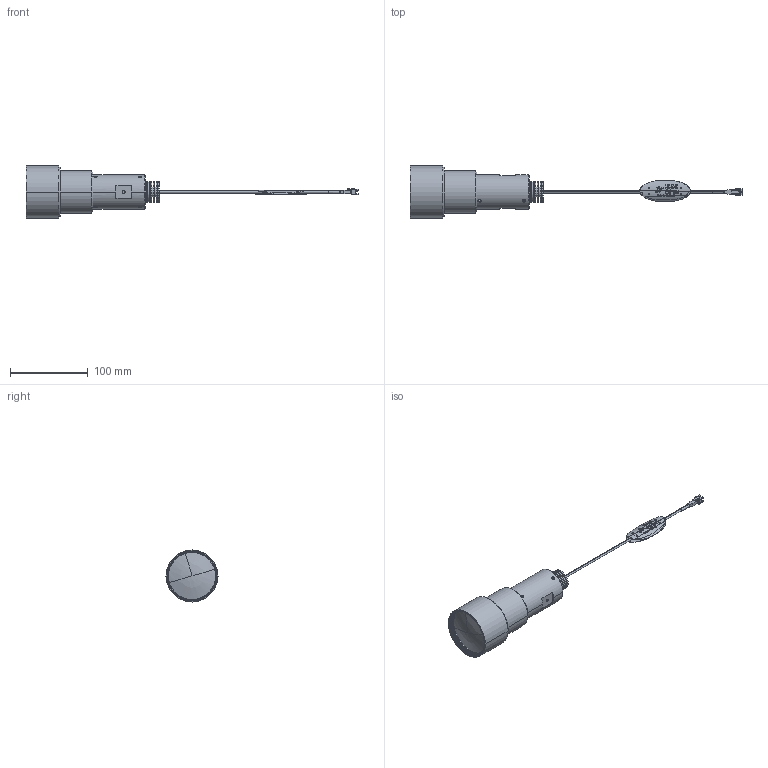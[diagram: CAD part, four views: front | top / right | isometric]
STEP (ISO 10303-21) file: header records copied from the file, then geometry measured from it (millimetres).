
FILE_DESCRIPTION(('STEP AP214'),'1');
FILE_NAME('VCL-60-2P_DRAWING_3D.step','2024-03-04T02:55:16',(' '),(' '),'Spatial InterOp 3D',' ',' ');
FILE_SCHEMA(('AUTOMOTIVE_DESIGN { 1 0 10303 214 1 1 1 1 }'));
Length unit declared in the file: millimetre
Products named in the file (10): Aparture Ring 20; FIX1; LED HOLDER; Cable Holder; LEN FRAME; LEN_1; close len; CABLE 2P; CABEL TAG (VS)
Assembly tree (9 placements, depth 2):
  (unnamed)
    Aparture Ring 20
    FIX1
    LED HOLDER
    Cable Holder
    LEN FRAME
    LEN_1
    close len
    CABLE 2P
    CABEL TAG (VS)
Bounding box: 427 x 67 x 67 mm (x, y, z)
Volume: 162867.9 mm3; surface area: 94544.9 mm2
Topology: 33 solids, 34 shells, 795 faces, 2298 edges, 1624 vertices
Faces by surface type: cylinder 496, plane 203, bspline 63, cone 30, torus 3
Entity records: 49696 total; most frequent: CARTESIAN_POINT 24662, ORIENTED_EDGE 4576, DIRECTION 3174, EDGE_CURVE 2288, VERTEX_POINT 1624, AXIS2_PLACEMENT_3D 1120, LINE 934, VECTOR 934
